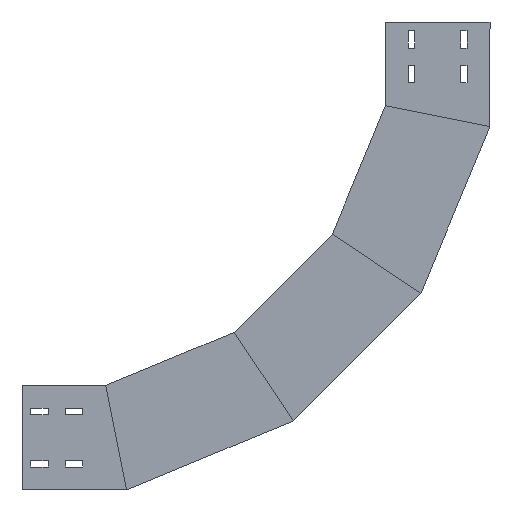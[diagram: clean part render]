
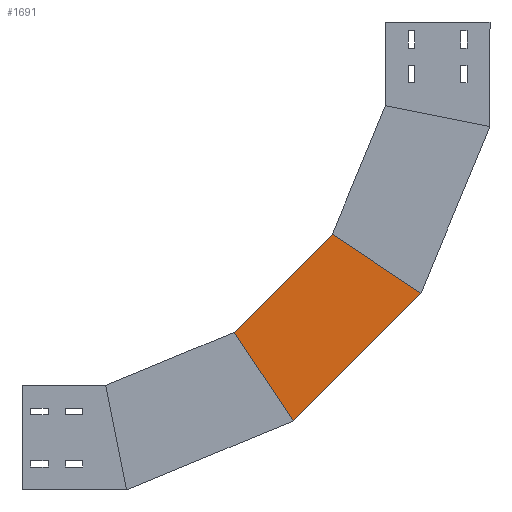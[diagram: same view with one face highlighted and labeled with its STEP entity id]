
A CAD part, left-side view. The second image highlights one B-rep face of the part: STEP entity #1691.
In plain terms, the highlighted planar face has unit normal (-1, 0, 0) as drawn and (1, 0, 0) by its records, which use the part's own axes.
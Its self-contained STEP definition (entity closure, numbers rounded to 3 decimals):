
#15 = EDGE_LOOP ( 'NONE', ( #1719, #2128, #2098, #1536 ) ) ;
#32 = VECTOR ( 'NONE', #2203, 1000. ) ;
#77 = DIRECTION ( 'NONE',  ( 0., 0.707, -0.707 ) ) ;
#187 = FACE_OUTER_BOUND ( 'NONE', #15, .T. ) ;
#330 = LINE ( 'NONE', #700, #1492 ) ;
#502 = CARTESIAN_POINT ( 'NONE',  ( 0., 226.279, -304.317 ) ) ;
#504 = VERTEX_POINT ( 'NONE', #782 ) ;
#554 = CARTESIAN_POINT ( 'NONE',  ( 0., 99.115, -389.285 ) ) ;
#658 = VERTEX_POINT ( 'NONE', #1879 ) ;
#700 = CARTESIAN_POINT ( 'NONE',  ( 0., 205.181, -283.219 ) ) ;
#748 = VECTOR ( 'NONE', #1162, 1000. ) ;
#765 = CARTESIAN_POINT ( 'NONE',  ( 0., 367.224, -445.262 ) ) ;
#782 = CARTESIAN_POINT ( 'NONE',  ( 0., 282.256, -572.425 ) ) ;
#852 = EDGE_CURVE ( 'NONE', #1381, #504, #1361, .T. ) ;
#1078 = DIRECTION ( 'NONE',  ( 0., 0.707, -0.707 ) ) ;
#1147 = VECTOR ( 'NONE', #77, 1000. ) ;
#1162 = DIRECTION ( 'NONE',  ( 0., -0.556, -0.831 ) ) ;
#1293 = CARTESIAN_POINT ( 'NONE',  ( 0., 141.128, -361.213 ) ) ;
#1300 = VERTEX_POINT ( 'NONE', #502 ) ;
#1312 = EDGE_CURVE ( 'NONE', #1300, #1381, #330, .T. ) ;
#1361 = LINE ( 'NONE', #1913, #748 ) ;
#1381 = VERTEX_POINT ( 'NONE', #765 ) ;
#1389 = LINE ( 'NONE', #2147, #1147 ) ;
#1492 = VECTOR ( 'NONE', #1078, 1000. ) ;
#1536 = ORIENTED_EDGE ( 'NONE', *, *, #852, .F. ) ;
#1611 = AXIS2_PLACEMENT_3D ( 'NONE', #554, #2049, #2258 ) ;
#1691 = ADVANCED_FACE ( 'NONE', ( #187 ), #2236, .F. ) ;
#1719 = ORIENTED_EDGE ( 'NONE', *, *, #1312, .F. ) ;
#1879 = CARTESIAN_POINT ( 'NONE',  ( 0., 99.115, -389.285 ) ) ;
#1913 = CARTESIAN_POINT ( 'NONE',  ( 0., 310.328, -530.413 ) ) ;
#1936 = EDGE_CURVE ( 'NONE', #658, #504, #1389, .T. ) ;
#1962 = EDGE_CURVE ( 'NONE', #1300, #658, #2224, .T. ) ;
#2049 = DIRECTION ( 'NONE',  ( -1., 0., 0. ) ) ;
#2098 = ORIENTED_EDGE ( 'NONE', *, *, #1936, .T. ) ;
#2128 = ORIENTED_EDGE ( 'NONE', *, *, #1962, .T. ) ;
#2147 = CARTESIAN_POINT ( 'NONE',  ( 0., 99.115, -389.285 ) ) ;
#2203 = DIRECTION ( 'NONE',  ( 0., -0.831, -0.556 ) ) ;
#2224 = LINE ( 'NONE', #1293, #32 ) ;
#2236 = PLANE ( 'NONE',  #1611 ) ;
#2258 = DIRECTION ( 'NONE',  ( 0., 0., 1. ) ) ;
